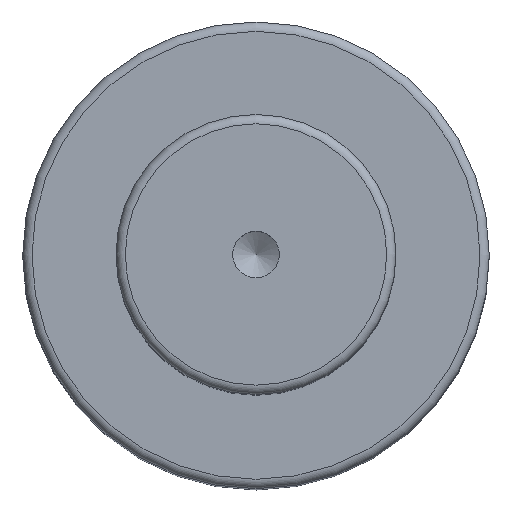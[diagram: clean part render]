
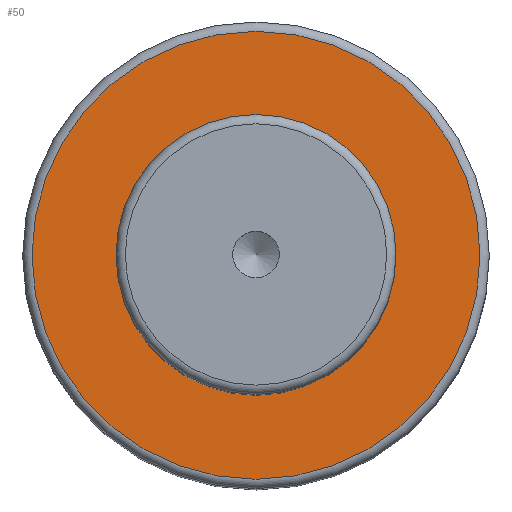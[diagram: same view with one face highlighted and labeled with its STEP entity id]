
A CAD part, top view. The second image highlights one B-rep face of the part: STEP entity #50.
In plain terms, the highlighted planar face has unit normal (0, 0, 1).
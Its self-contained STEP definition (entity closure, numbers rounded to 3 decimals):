
#40=PLANE('',#179);
#50=ADVANCED_FACE('',(#72,#73),#40,.F.);
#72=FACE_BOUND('',#96,.T.);
#73=FACE_BOUND('',#97,.T.);
#96=EDGE_LOOP('',(#118));
#97=EDGE_LOOP('',(#119));
#118=ORIENTED_EDGE('',*,*,#149,.F.);
#119=ORIENTED_EDGE('',*,*,#148,.T.);
#135=VERTEX_POINT('',#256);
#136=VERTEX_POINT('',#259);
#148=EDGE_CURVE('',#135,#135,#159,.T.);
#149=EDGE_CURVE('',#136,#136,#160,.T.);
#159=CIRCLE('',#176,15.);
#160=CIRCLE('',#178,24.);
#176=AXIS2_PLACEMENT_3D('',#255,#213,#214);
#178=AXIS2_PLACEMENT_3D('',#258,#217,#218);
#179=AXIS2_PLACEMENT_3D('',#260,#219,#220);
#213=DIRECTION('',(0.,0.,-1.));
#214=DIRECTION('',(-1.,0.,0.));
#217=DIRECTION('',(0.,0.,-1.));
#218=DIRECTION('',(-1.,0.,0.));
#219=DIRECTION('',(0.,0.,-1.));
#220=DIRECTION('',(-1.,0.,0.));
#255=CARTESIAN_POINT('',(0.,0.,84.));
#256=CARTESIAN_POINT('',(-15.,0.,84.));
#258=CARTESIAN_POINT('',(0.,0.,84.));
#259=CARTESIAN_POINT('',(-24.,0.,84.));
#260=CARTESIAN_POINT('',(15.,0.,84.));
